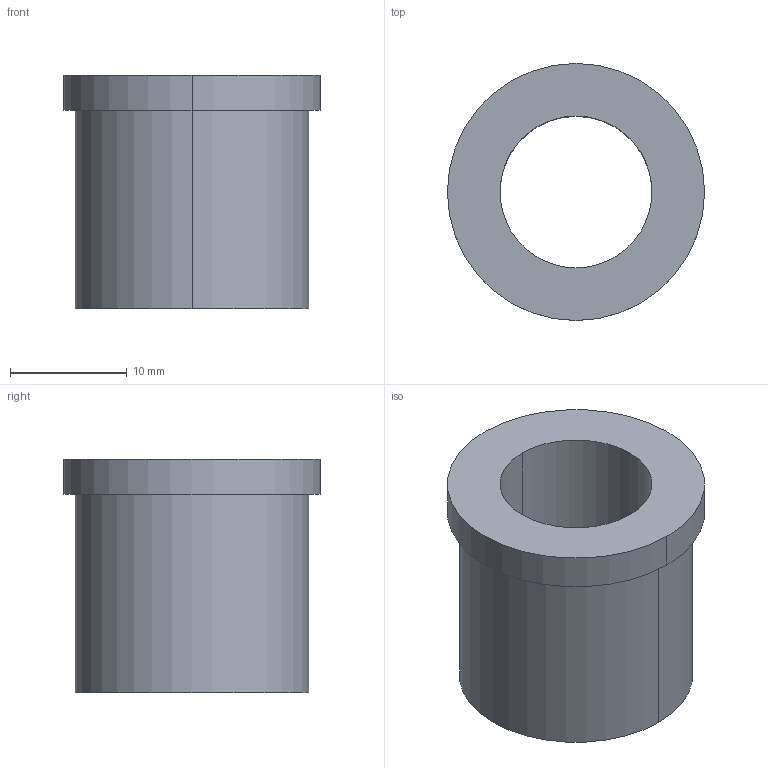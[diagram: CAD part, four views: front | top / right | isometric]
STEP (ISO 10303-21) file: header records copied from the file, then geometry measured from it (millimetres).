
FILE_DESCRIPTION(/* description */ (''),/* implementation_level */ '2;1');
FILE_NAME(/* name */ '3d_tghm13-20_00339_r00.stp',/* time_stamp */ '2011-01-10T14:09:02+09:00',/* author */ ('MISUMI'),/* organization */ (''),/* preprocessor_version */ 'ST-DEVELOPER v11',/* originating_system */ 'UGS - NX 5.0',/* authorisation */ '');
FILE_SCHEMA (('CONFIG_CONTROL_DESIGN'));
Length unit declared in the file: millimetre
Products named in the file (1): 3d_tghm13-20_00339_r00
Bounding box: 22 x 22 x 20 mm (x, y, z)
Volume: 3826.5 mm3; surface area: 2587.1 mm2
Topology: 1 solids, 1 shells, 9 faces, 18 edges, 12 vertices
Faces by surface type: cylinder 6, plane 3
Entity records: 334 total; most frequent: DIRECTION 50, CARTESIAN_POINT 40, ORIENTED_EDGE 36, AXIS2_PLACEMENT_3D 22, EDGE_CURVE 18, EDGE_LOOP 12, VERTEX_POINT 12, CIRCLE 12
